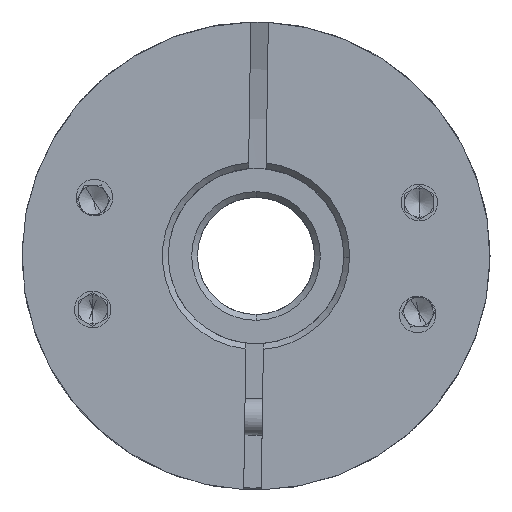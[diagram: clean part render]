
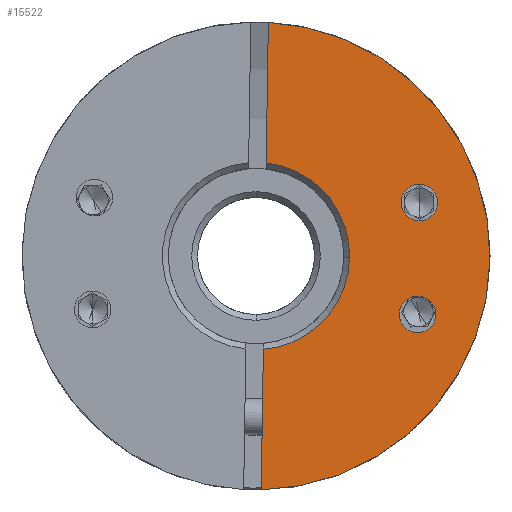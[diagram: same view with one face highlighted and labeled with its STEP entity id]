
A CAD part, front view. The second image highlights one B-rep face of the part: STEP entity #15522.
In plain terms, the highlighted planar face has unit normal (0, -1, 0).
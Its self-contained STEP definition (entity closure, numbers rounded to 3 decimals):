
#37 = EDGE_LOOP ( 'NONE', ( #21340, #9775, #6139, #4240, #6907, #18027 ) ) ;
#423 = CIRCLE ( 'NONE', #15575, 1.25 ) ;
#473 = AXIS2_PLACEMENT_3D ( 'NONE', #18531, #10929, #3570 ) ;
#926 = VERTEX_POINT ( 'NONE', #4521 ) ;
#1488 = EDGE_LOOP ( 'NONE', ( #3195, #1580 ) ) ;
#1580 = ORIENTED_EDGE ( 'NONE', *, *, #10947, .T. ) ;
#1668 = EDGE_CURVE ( 'NONE', #23766, #926, #10359, .T. ) ;
#1732 = CIRCLE ( 'NONE', #13106, 16. ) ;
#1954 = EDGE_CURVE ( 'NONE', #6196, #4007, #5090, .T. ) ;
#2025 = CARTESIAN_POINT ( 'NONE',  ( -58.487, -19.411, 5.99 ) ) ;
#3195 = ORIENTED_EDGE ( 'NONE', *, *, #12366, .T. ) ;
#3538 = DIRECTION ( 'NONE',  ( 1., 0., -0.015 ) ) ;
#3570 = DIRECTION ( 'NONE',  ( 1., 0., -0.015 ) ) ;
#3897 = CARTESIAN_POINT ( 'NONE',  ( -43.18, -19.411, -0.243 ) ) ;
#3988 = AXIS2_PLACEMENT_3D ( 'NONE', #13534, #8214, #7986 ) ;
#4007 = VERTEX_POINT ( 'NONE', #21689 ) ;
#4192 = AXIS2_PLACEMENT_3D ( 'NONE', #23997, #23825, #14788 ) ;
#4240 = ORIENTED_EDGE ( 'NONE', *, *, #1668, .T. ) ;
#4521 = CARTESIAN_POINT ( 'NONE',  ( -58.821, -19.411, -15.996 ) ) ;
#4681 = CIRCLE ( 'NONE', #12693, 6.4 ) ;
#5003 = EDGE_CURVE ( 'NONE', #4007, #19898, #20824, .T. ) ;
#5090 = LINE ( 'NONE', #6327, #14438 ) ;
#5393 = VECTOR ( 'NONE', #13057, 1000. ) ;
#5425 = CARTESIAN_POINT ( 'NONE',  ( -48.012, -19.411, 3.656 ) ) ;
#5970 = ORIENTED_EDGE ( 'NONE', *, *, #22097, .T. ) ;
#6139 = ORIENTED_EDGE ( 'NONE', *, *, #18829, .T. ) ;
#6196 = VERTEX_POINT ( 'NONE', #13348 ) ;
#6276 = CARTESIAN_POINT ( 'NONE',  ( -48.012, -19.411, 3.656 ) ) ;
#6327 = CARTESIAN_POINT ( 'NONE',  ( -58.487, -19.411, 5.99 ) ) ;
#6405 = CIRCLE ( 'NONE', #10844, 16. ) ;
#6601 = EDGE_CURVE ( 'NONE', #11387, #6196, #1732, .T. ) ;
#6907 = ORIENTED_EDGE ( 'NONE', *, *, #19148, .T. ) ;
#7395 = CARTESIAN_POINT ( 'NONE',  ( -59.178, -19.411, 0. ) ) ;
#7513 = VERTEX_POINT ( 'NONE', #14400 ) ;
#7839 = DIRECTION ( 'NONE',  ( 0., -1., 0. ) ) ;
#7986 = DIRECTION ( 'NONE',  ( 1., 0., -0.015 ) ) ;
#8103 = CARTESIAN_POINT ( 'NONE',  ( -58.675, -19.411, -6.38 ) ) ;
#8214 = DIRECTION ( 'NONE',  ( 0., 1., 0. ) ) ;
#8770 = CARTESIAN_POINT ( 'NONE',  ( -59.178, -19.411, 0. ) ) ;
#8841 = PLANE ( 'NONE',  #4192 ) ;
#9505 = CARTESIAN_POINT ( 'NONE',  ( -49.378, -19.411, -3.975 ) ) ;
#9715 = CIRCLE ( 'NONE', #15859, 1.25 ) ;
#9775 = ORIENTED_EDGE ( 'NONE', *, *, #5003, .T. ) ;
#10028 = CARTESIAN_POINT ( 'NONE',  ( -46.762, -19.411, 3.637 ) ) ;
#10212 = FACE_OUTER_BOUND ( 'NONE', #37, .T. ) ;
#10359 = LINE ( 'NONE', #2025, #5393 ) ;
#10817 = DIRECTION ( 'NONE',  ( 0., -1., 0. ) ) ;
#10844 = AXIS2_PLACEMENT_3D ( 'NONE', #15263, #7839, #13629 ) ;
#10929 = DIRECTION ( 'NONE',  ( 0., 1., 0. ) ) ;
#10931 = CARTESIAN_POINT ( 'NONE',  ( -59.178, -19.411, 0. ) ) ;
#10947 = EDGE_CURVE ( 'NONE', #7513, #17882, #19187, .T. ) ;
#11127 = VERTEX_POINT ( 'NONE', #12224 ) ;
#11328 = ORIENTED_EDGE ( 'NONE', *, *, #13216, .T. ) ;
#11387 = VERTEX_POINT ( 'NONE', #3897 ) ;
#11471 = EDGE_LOOP ( 'NONE', ( #11328, #5970 ) ) ;
#11704 = DIRECTION ( 'NONE',  ( 0., 1., 0. ) ) ;
#12060 = DIRECTION ( 'NONE',  ( 1., 0., -0.015 ) ) ;
#12224 = CARTESIAN_POINT ( 'NONE',  ( -49.261, -19.411, 3.675 ) ) ;
#12366 = EDGE_CURVE ( 'NONE', #17882, #7513, #20255, .T. ) ;
#12693 = AXIS2_PLACEMENT_3D ( 'NONE', #8770, #23929, #20032 ) ;
#13057 = DIRECTION ( 'NONE',  ( -0.015, 0., -1. ) ) ;
#13106 = AXIS2_PLACEMENT_3D ( 'NONE', #7395, #10817, #3538 ) ;
#13216 = EDGE_CURVE ( 'NONE', #11127, #13713, #9715, .T. ) ;
#13348 = CARTESIAN_POINT ( 'NONE',  ( -58.336, -19.411, 15.978 ) ) ;
#13534 = CARTESIAN_POINT ( 'NONE',  ( -48.128, -19.411, -3.994 ) ) ;
#13629 = DIRECTION ( 'NONE',  ( 1., 0., -0.015 ) ) ;
#13713 = VERTEX_POINT ( 'NONE', #10028 ) ;
#13864 = DIRECTION ( 'NONE',  ( -0.015, 0., -1. ) ) ;
#14400 = CARTESIAN_POINT ( 'NONE',  ( -46.878, -19.411, -4.013 ) ) ;
#14438 = VECTOR ( 'NONE', #13864, 1000. ) ;
#14788 = DIRECTION ( 'NONE',  ( 1., 0., -0.015 ) ) ;
#15175 = FACE_BOUND ( 'NONE', #1488, .T. ) ;
#15263 = CARTESIAN_POINT ( 'NONE',  ( -59.178, -19.411, 0. ) ) ;
#15375 = DIRECTION ( 'NONE',  ( 1., 0., -0.015 ) ) ;
#15522 = ADVANCED_FACE ( 'NONE', ( #10212, #20741, #15175 ), #8841, .T. ) ;
#15575 = AXIS2_PLACEMENT_3D ( 'NONE', #5425, #11704, #15375 ) ;
#15821 = AXIS2_PLACEMENT_3D ( 'NONE', #10931, #18451, #23972 ) ;
#15859 = AXIS2_PLACEMENT_3D ( 'NONE', #6276, #19362, #12060 ) ;
#17882 = VERTEX_POINT ( 'NONE', #9505 ) ;
#18027 = ORIENTED_EDGE ( 'NONE', *, *, #6601, .T. ) ;
#18451 = DIRECTION ( 'NONE',  ( 0., 1., 0. ) ) ;
#18531 = CARTESIAN_POINT ( 'NONE',  ( -48.128, -19.411, -3.994 ) ) ;
#18829 = EDGE_CURVE ( 'NONE', #19898, #23766, #4681, .T. ) ;
#19148 = EDGE_CURVE ( 'NONE', #926, #11387, #6405, .T. ) ;
#19187 = CIRCLE ( 'NONE', #473, 1.25 ) ;
#19362 = DIRECTION ( 'NONE',  ( 0., 1., 0. ) ) ;
#19898 = VERTEX_POINT ( 'NONE', #22144 ) ;
#20032 = DIRECTION ( 'NONE',  ( 1., 0., -0.015 ) ) ;
#20255 = CIRCLE ( 'NONE', #3988, 1.25 ) ;
#20741 = FACE_BOUND ( 'NONE', #11471, .T. ) ;
#20824 = CIRCLE ( 'NONE', #15821, 6.4 ) ;
#21340 = ORIENTED_EDGE ( 'NONE', *, *, #1954, .T. ) ;
#21689 = CARTESIAN_POINT ( 'NONE',  ( -58.482, -19.411, 6.362 ) ) ;
#22097 = EDGE_CURVE ( 'NONE', #13713, #11127, #423, .T. ) ;
#22144 = CARTESIAN_POINT ( 'NONE',  ( -52.779, -19.411, -0.097 ) ) ;
#23766 = VERTEX_POINT ( 'NONE', #8103 ) ;
#23825 = DIRECTION ( 'NONE',  ( 0., -1., 0. ) ) ;
#23929 = DIRECTION ( 'NONE',  ( 0., 1., 0. ) ) ;
#23972 = DIRECTION ( 'NONE',  ( 1., 0., -0.015 ) ) ;
#23997 = CARTESIAN_POINT ( 'NONE',  ( -59.178, -19.411, 0. ) ) ;
